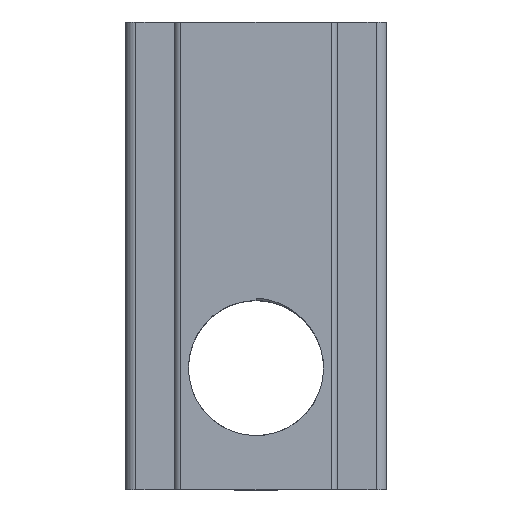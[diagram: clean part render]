
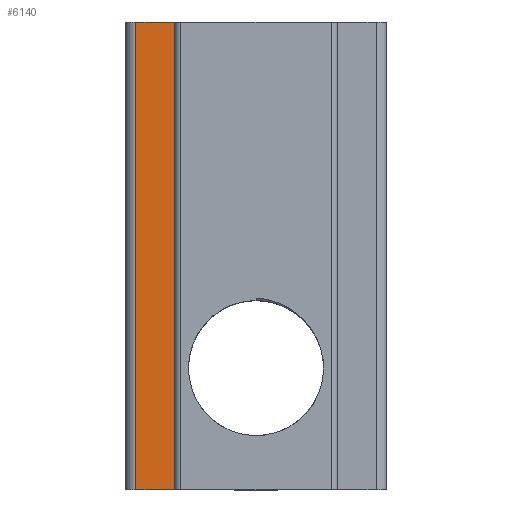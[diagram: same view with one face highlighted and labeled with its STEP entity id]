
A CAD part, top view. The second image highlights one B-rep face of the part: STEP entity #6140.
In plain terms, the highlighted planar face has unit normal (0, 0, 1).
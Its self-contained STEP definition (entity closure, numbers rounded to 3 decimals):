
#90 = PLANE('',#91);
#91 = AXIS2_PLACEMENT_3D('',#92,#93,#94);
#92 = CARTESIAN_POINT('',(-6.013,-11.5,3.88));
#93 = DIRECTION('',(0.,1.,0.));
#94 = DIRECTION('',(0.,-0.,1.));
#146 = PLANE('',#147);
#147 = AXIS2_PLACEMENT_3D('',#148,#149,#150);
#148 = CARTESIAN_POINT('',(-6.013,11.5,3.88));
#149 = DIRECTION('',(0.,1.,0.));
#150 = DIRECTION('',(0.,-0.,1.));
#869 = CYLINDRICAL_SURFACE('',#870,0.5);
#870 = AXIS2_PLACEMENT_3D('',#871,#872,#873);
#871 = CARTESIAN_POINT('',(-5.911,-11.5,-1.3));
#872 = DIRECTION('',(-0.,-1.,-0.));
#873 = DIRECTION('',(0.,0.,1.));
#4957 = VERTEX_POINT('',#4958);
#4958 = CARTESIAN_POINT('',(-4.,-11.5,-0.8));
#4967 = PLANE('',#4968);
#4968 = AXIS2_PLACEMENT_3D('',#4969,#4970,#4971);
#4969 = CARTESIAN_POINT('',(-4.,-11.5,0.));
#4970 = DIRECTION('',(-1.,0.,0.));
#4971 = DIRECTION('',(0.,0.,1.));
#5010 = VERTEX_POINT('',#5011);
#5011 = CARTESIAN_POINT('',(-4.,11.5,-0.8));
#5032 = EDGE_CURVE('',#4957,#5010,#5033,.T.);
#5033 = SURFACE_CURVE('',#5034,(#5038,#5045),.PCURVE_S1.);
#5034 = LINE('',#5035,#5036);
#5035 = CARTESIAN_POINT('',(-4.,-11.5,-0.8));
#5036 = VECTOR('',#5037,1.);
#5037 = DIRECTION('',(0.,1.,0.));
#5038 = PCURVE('',#4967,#5039);
#5039 = DEFINITIONAL_REPRESENTATION('',(#5040),#5044);
#5040 = LINE('',#5041,#5042);
#5041 = CARTESIAN_POINT('',(-0.8,0.));
#5042 = VECTOR('',#5043,1.);
#5043 = DIRECTION('',(0.,1.));
#5044 = ( GEOMETRIC_REPRESENTATION_CONTEXT(2) 
PARAMETRIC_REPRESENTATION_CONTEXT() REPRESENTATION_CONTEXT('2D SPACE',''
  ) );
#5045 = PCURVE('',#5046,#5051);
#5046 = PLANE('',#5047);
#5047 = AXIS2_PLACEMENT_3D('',#5048,#5049,#5050);
#5048 = CARTESIAN_POINT('',(-4.,-11.5,-0.8));
#5049 = DIRECTION('',(0.,0.,1.));
#5050 = DIRECTION('',(1.,0.,0.));
#5051 = DEFINITIONAL_REPRESENTATION('',(#5052),#5056);
#5052 = LINE('',#5053,#5054);
#5053 = CARTESIAN_POINT('',(0.,0.));
#5054 = VECTOR('',#5055,1.);
#5055 = DIRECTION('',(0.,1.));
#5056 = ( GEOMETRIC_REPRESENTATION_CONTEXT(2) 
PARAMETRIC_REPRESENTATION_CONTEXT() REPRESENTATION_CONTEXT('2D SPACE',''
  ) );
#5336 = VERTEX_POINT('',#5337);
#5337 = CARTESIAN_POINT('',(-5.911,-11.5,-0.8));
#5359 = EDGE_CURVE('',#5336,#5360,#5362,.T.);
#5360 = VERTEX_POINT('',#5361);
#5361 = CARTESIAN_POINT('',(-5.911,11.5,-0.8));
#5362 = SURFACE_CURVE('',#5363,(#5367,#5374),.PCURVE_S1.);
#5363 = LINE('',#5364,#5365);
#5364 = CARTESIAN_POINT('',(-5.911,-11.5,-0.8));
#5365 = VECTOR('',#5366,1.);
#5366 = DIRECTION('',(0.,1.,0.));
#5367 = PCURVE('',#869,#5368);
#5368 = DEFINITIONAL_REPRESENTATION('',(#5369),#5373);
#5369 = LINE('',#5370,#5371);
#5370 = CARTESIAN_POINT('',(0.,0.));
#5371 = VECTOR('',#5372,1.);
#5372 = DIRECTION('',(0.,-1.));
#5373 = ( GEOMETRIC_REPRESENTATION_CONTEXT(2) 
PARAMETRIC_REPRESENTATION_CONTEXT() REPRESENTATION_CONTEXT('2D SPACE',''
  ) );
#5374 = PCURVE('',#5046,#5375);
#5375 = DEFINITIONAL_REPRESENTATION('',(#5376),#5380);
#5376 = LINE('',#5377,#5378);
#5377 = CARTESIAN_POINT('',(-1.911,0.));
#5378 = VECTOR('',#5379,1.);
#5379 = DIRECTION('',(0.,1.));
#5380 = ( GEOMETRIC_REPRESENTATION_CONTEXT(2) 
PARAMETRIC_REPRESENTATION_CONTEXT() REPRESENTATION_CONTEXT('2D SPACE',''
  ) );
#6026 = EDGE_CURVE('',#5336,#4957,#6027,.T.);
#6027 = SURFACE_CURVE('',#6028,(#6032,#6039),.PCURVE_S1.);
#6028 = LINE('',#6029,#6030);
#6029 = CARTESIAN_POINT('',(-4.,-11.5,-0.8));
#6030 = VECTOR('',#6031,1.);
#6031 = DIRECTION('',(1.,0.,0.));
#6032 = PCURVE('',#90,#6033);
#6033 = DEFINITIONAL_REPRESENTATION('',(#6034),#6038);
#6034 = LINE('',#6035,#6036);
#6035 = CARTESIAN_POINT('',(-4.68,2.013));
#6036 = VECTOR('',#6037,1.);
#6037 = DIRECTION('',(0.,1.));
#6038 = ( GEOMETRIC_REPRESENTATION_CONTEXT(2) 
PARAMETRIC_REPRESENTATION_CONTEXT() REPRESENTATION_CONTEXT('2D SPACE',''
  ) );
#6039 = PCURVE('',#5046,#6040);
#6040 = DEFINITIONAL_REPRESENTATION('',(#6041),#6045);
#6041 = LINE('',#6042,#6043);
#6042 = CARTESIAN_POINT('',(0.,0.));
#6043 = VECTOR('',#6044,1.);
#6044 = DIRECTION('',(1.,0.));
#6045 = ( GEOMETRIC_REPRESENTATION_CONTEXT(2) 
PARAMETRIC_REPRESENTATION_CONTEXT() REPRESENTATION_CONTEXT('2D SPACE',''
  ) );
#6140 = ADVANCED_FACE('',(#6141),#5046,.T.);
#6141 = FACE_BOUND('',#6142,.T.);
#6142 = EDGE_LOOP('',(#6143,#6164,#6165,#6166));
#6143 = ORIENTED_EDGE('',*,*,#6144,.F.);
#6144 = EDGE_CURVE('',#5360,#5010,#6145,.T.);
#6145 = SURFACE_CURVE('',#6146,(#6150,#6157),.PCURVE_S1.);
#6146 = LINE('',#6147,#6148);
#6147 = CARTESIAN_POINT('',(-4.,11.5,-0.8));
#6148 = VECTOR('',#6149,1.);
#6149 = DIRECTION('',(1.,0.,0.));
#6150 = PCURVE('',#5046,#6151);
#6151 = DEFINITIONAL_REPRESENTATION('',(#6152),#6156);
#6152 = LINE('',#6153,#6154);
#6153 = CARTESIAN_POINT('',(0.,23.));
#6154 = VECTOR('',#6155,1.);
#6155 = DIRECTION('',(1.,0.));
#6156 = ( GEOMETRIC_REPRESENTATION_CONTEXT(2) 
PARAMETRIC_REPRESENTATION_CONTEXT() REPRESENTATION_CONTEXT('2D SPACE',''
  ) );
#6157 = PCURVE('',#146,#6158);
#6158 = DEFINITIONAL_REPRESENTATION('',(#6159),#6163);
#6159 = LINE('',#6160,#6161);
#6160 = CARTESIAN_POINT('',(-4.68,2.013));
#6161 = VECTOR('',#6162,1.);
#6162 = DIRECTION('',(0.,1.));
#6163 = ( GEOMETRIC_REPRESENTATION_CONTEXT(2) 
PARAMETRIC_REPRESENTATION_CONTEXT() REPRESENTATION_CONTEXT('2D SPACE',''
  ) );
#6164 = ORIENTED_EDGE('',*,*,#5359,.F.);
#6165 = ORIENTED_EDGE('',*,*,#6026,.T.);
#6166 = ORIENTED_EDGE('',*,*,#5032,.T.);
